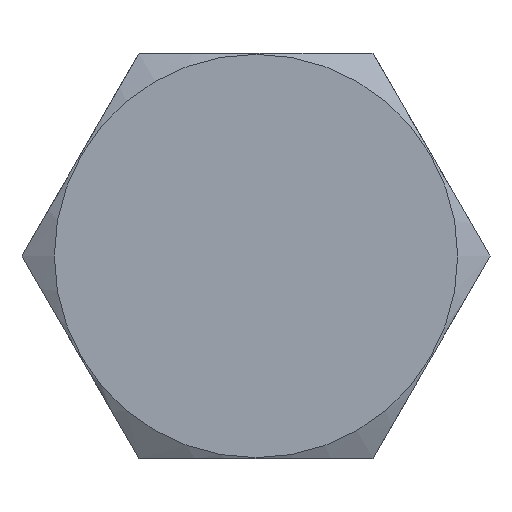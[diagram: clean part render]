
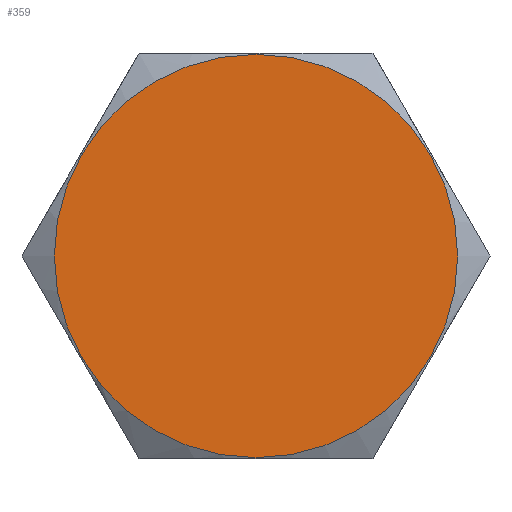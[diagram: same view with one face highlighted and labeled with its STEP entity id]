
A CAD part, front view. The second image highlights one B-rep face of the part: STEP entity #359.
In plain terms, the highlighted planar face has unit normal (0, -1, 0).
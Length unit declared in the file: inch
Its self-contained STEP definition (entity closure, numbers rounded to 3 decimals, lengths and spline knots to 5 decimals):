
#52=PLANE('',#409);
#108=FACE_OUTER_BOUND('',#131,.T.);
#131=EDGE_LOOP('',(#329));
#148=CIRCLE('',#408,0.62188);
#183=VERTEX_POINT('',#680);
#233=EDGE_CURVE('',#183,#183,#148,.T.);
#329=ORIENTED_EDGE('',*,*,#233,.F.);
#359=ADVANCED_FACE('',(#108),#52,.T.);
#408=AXIS2_PLACEMENT_3D('',#681,#494,#495);
#409=AXIS2_PLACEMENT_3D('',#683,#497,#498);
#494=DIRECTION('center_axis',(0.,1.,0.));
#495=DIRECTION('ref_axis',(0.,0.,1.));
#497=DIRECTION('center_axis',(0.,-1.,0.));
#498=DIRECTION('ref_axis',(0.,0.,-1.));
#680=CARTESIAN_POINT('',(0.,0.,-0.62188));
#681=CARTESIAN_POINT('Origin',(0.,0.,0.));
#683=CARTESIAN_POINT('Origin',(0.,0.,0.));
